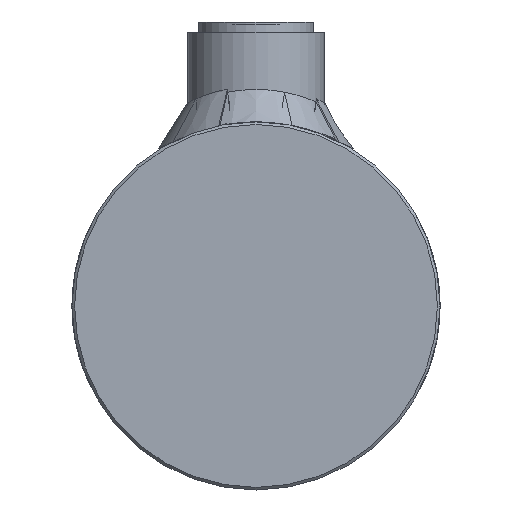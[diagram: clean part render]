
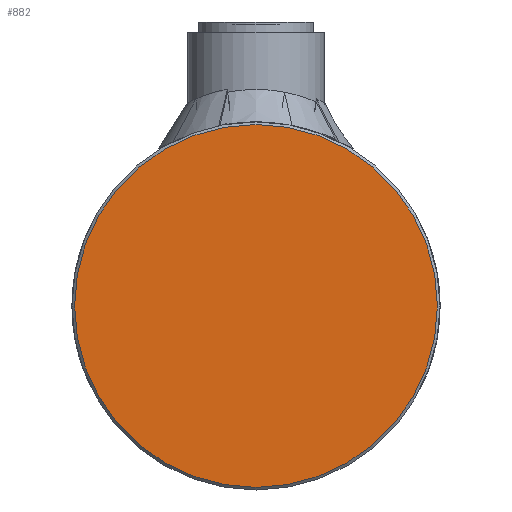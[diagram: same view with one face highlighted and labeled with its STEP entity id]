
A CAD part, left-side view. The second image highlights one B-rep face of the part: STEP entity #882.
In plain terms, the highlighted planar face has unit normal (-1, 0, 0).
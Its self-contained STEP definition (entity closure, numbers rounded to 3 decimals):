
#882 = ADVANCED_FACE( '', ( #1718 ), #1719, .T. );
#1718 = FACE_OUTER_BOUND( '', #5350, .T. );
#1719 = PLANE( '', #5351 );
#5350 = EDGE_LOOP( '', ( #8996 ) );
#5351 = AXIS2_PLACEMENT_3D( '', #8997, #8998, #8999 );
#8996 = ORIENTED_EDGE( '', *, *, #9959, .T. );
#8997 = CARTESIAN_POINT( '', ( -47., 0., 0. ) );
#8998 = DIRECTION( '', ( -1., 0., 0. ) );
#8999 = DIRECTION( '', ( 0., -1., 0. ) );
#9959 = EDGE_CURVE( '', #10758, #10758, #10759, .T. );
#10758 = VERTEX_POINT( '', #12689 );
#10759 = CIRCLE( '', #12690, 34.5 );
#12689 = CARTESIAN_POINT( '', ( -47., -34.5, 0. ) );
#12690 = AXIS2_PLACEMENT_3D( '', #14762, #14763, #14764 );
#14762 = CARTESIAN_POINT( '', ( -47., 0., 0. ) );
#14763 = DIRECTION( '', ( -1., 0., 0. ) );
#14764 = DIRECTION( '', ( 0., -1., 0. ) );
